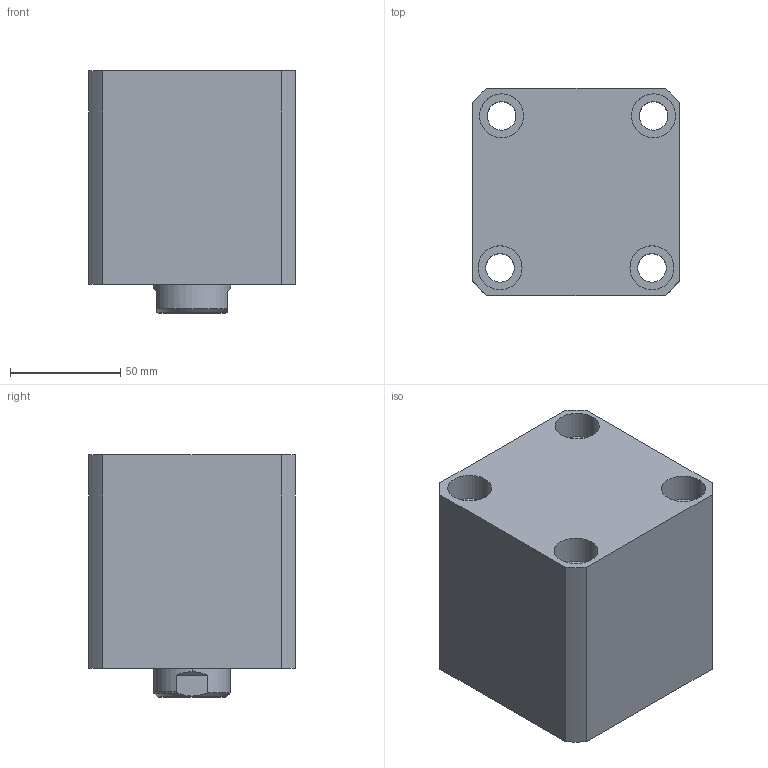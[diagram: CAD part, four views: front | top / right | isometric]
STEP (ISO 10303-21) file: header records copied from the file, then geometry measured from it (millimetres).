
FILE_DESCRIPTION (( 'STEP AP214' ), '1' );
FILE_NAME ('chtb-sdma63x30n_asm.STEP', '2018-05-16T02:30:31', ( 'Windows' ), ( 'Microsoft' ), 'SwSTEP 2.0', 'SolidWorks 2015', '' );
FILE_SCHEMA (( 'AUTOMOTIVE_DESIGN' ));
Length unit declared in the file: millimetre
Products named in the file (4): chtb-sdma63x30n_asm; CHTB-SDMA63X30NBT; CHTB63X30NHSG; CHTB-63QG
Assembly tree (3 placements, depth 2):
  chtb-sdma63x30n_asm
    CHTB-63QG
    CHTB63X30NHSG
    CHTB-SDMA63X30NBT
Bounding box: 94 x 94 x 110 mm (x, y, z)
Volume: 714523.3 mm3; surface area: 128645.7 mm2
Topology: 3 solids, 3 shells, 165 faces, 472 edges, 321 vertices
Faces by surface type: cylinder 107, plane 31, bspline 12, cone 8, torus 7
Entity records: 17727 total; most frequent: CARTESIAN_POINT 13576, ORIENTED_EDGE 932, DIRECTION 716, EDGE_CURVE 466, VERTEX_POINT 321, AXIS2_PLACEMENT_3D 288, EDGE_LOOP 197, ADVANCED_FACE 165
